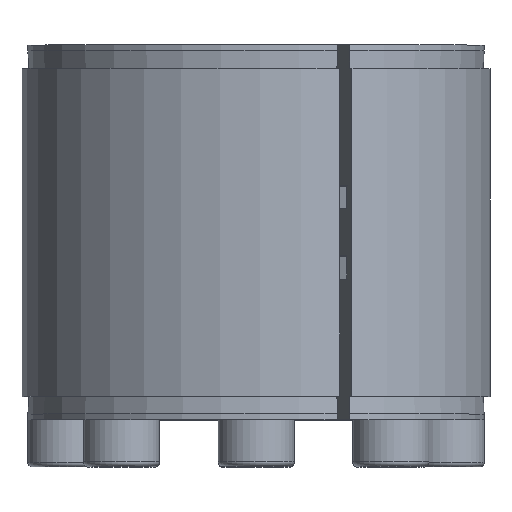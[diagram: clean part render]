
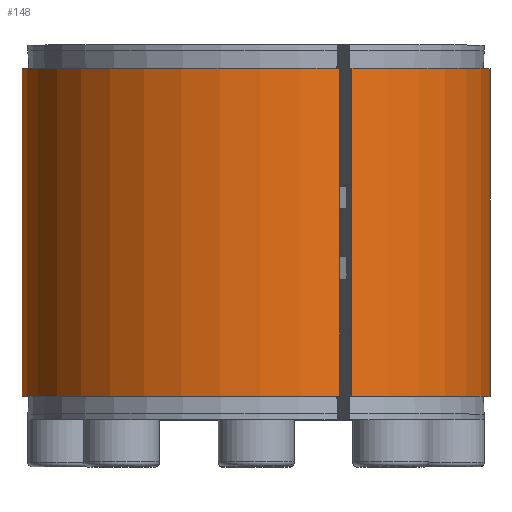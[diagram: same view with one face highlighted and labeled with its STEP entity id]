
A CAD part, top view. The second image highlights one B-rep face of the part: STEP entity #148.
In plain terms, the highlighted cylindrical face has radius 40 mm (diameter 80 mm), a partial arc.
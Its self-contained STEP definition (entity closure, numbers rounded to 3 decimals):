
#148 = ADVANCED_FACE( '', ( #348 ), #349, .T. );
#348 = FACE_OUTER_BOUND( '', #582, .T. );
#349 = CYLINDRICAL_SURFACE( '', #583, 40. );
#582 = EDGE_LOOP( '', ( #954, #955, #956, #957 ) );
#583 = AXIS2_PLACEMENT_3D( '', #958, #959, #960 );
#954 = ORIENTED_EDGE( '', *, *, #1257, .F. );
#955 = ORIENTED_EDGE( '', *, *, #1212, .T. );
#956 = ORIENTED_EDGE( '', *, *, #1240, .F. );
#957 = ORIENTED_EDGE( '', *, *, #1258, .F. );
#958 = CARTESIAN_POINT( '', ( 0., -60., 0. ) );
#959 = DIRECTION( '', ( 0., 1., 0. ) );
#960 = DIRECTION( '', ( 0., 0., -1. ) );
#1212 = EDGE_CURVE( '', #1473, #1475, #1477, .T. );
#1240 = EDGE_CURVE( '', #1516, #1475, #1518, .F. );
#1257 = EDGE_CURVE( '', #1473, #1541, #1542, .T. );
#1258 = EDGE_CURVE( '', #1541, #1516, #1543, .T. );
#1473 = VERTEX_POINT( '', #1866 );
#1475 = VERTEX_POINT( '', #1869 );
#1477 = CIRCLE( '', #1872, 40. );
#1516 = VERTEX_POINT( '', #1927 );
#1518 = LINE( '', #1930, #1931 );
#1541 = VERTEX_POINT( '', #1962 );
#1542 = LINE( '', #1963, #1964 );
#1543 = CIRCLE( '', #1965, 40. );
#1866 = CARTESIAN_POINT( '', ( 14.239, 60., 37.38 ) );
#1869 = CARTESIAN_POINT( '', ( 16.363, 60., 36.5 ) );
#1872 = AXIS2_PLACEMENT_3D( '', #2181, #2182, #2183 );
#1927 = CARTESIAN_POINT( '', ( 16.363, 4., 36.5 ) );
#1930 = CARTESIAN_POINT( '', ( 16.363, -60., 36.5 ) );
#1931 = VECTOR( '', #2213, 1000. );
#1962 = CARTESIAN_POINT( '', ( 14.239, 4., 37.38 ) );
#1963 = CARTESIAN_POINT( '', ( 14.239, -60., 37.38 ) );
#1964 = VECTOR( '', #2234, 1000. );
#1965 = AXIS2_PLACEMENT_3D( '', #2235, #2236, #2237 );
#2181 = CARTESIAN_POINT( '', ( 0., 60., 0. ) );
#2182 = DIRECTION( '', ( 0., -1., 0. ) );
#2183 = DIRECTION( '', ( 0., 0., -1. ) );
#2213 = DIRECTION( '', ( 0., -1., 0. ) );
#2234 = DIRECTION( '', ( 0., -1., 0. ) );
#2235 = CARTESIAN_POINT( '', ( 0., 4., 0. ) );
#2236 = DIRECTION( '', ( 0., -1., 0. ) );
#2237 = DIRECTION( '', ( 0., 0., -1. ) );
